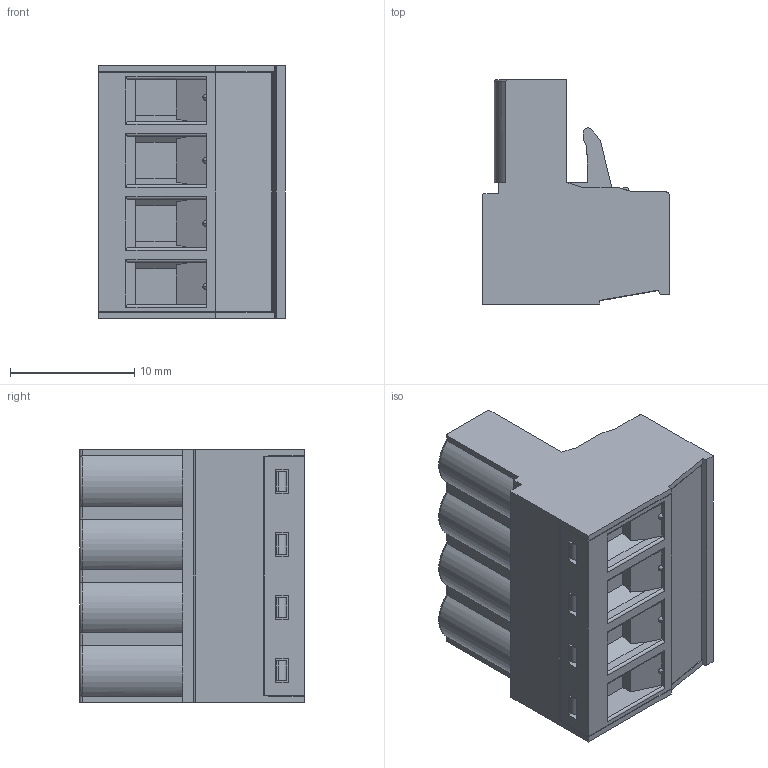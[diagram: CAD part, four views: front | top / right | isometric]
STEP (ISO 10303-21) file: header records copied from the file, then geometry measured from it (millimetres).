
FILE_DESCRIPTION (( 'STEP AP203' ), '1' );
FILE_NAME ('BR8F1-04.STEP', '2020-03-04T00:50:06', ( '' ), ( '' ), 'SwSTEP 2.0', 'SolidWorks 2019', '' );
FILE_SCHEMA (( 'CONFIG_CONTROL_DESIGN' ));
Length unit declared in the file: millimetre
Products named in the file (1): BR8F1-04
Bounding box: 15.05 x 18.1 x 20.32 mm (x, y, z)
Volume: 3259 mm3; surface area: 2974.9 mm2
Topology: 1 solids, 1 shells, 559 faces, 1497 edges, 964 vertices
Faces by surface type: plane 357, cylinder 130, cone 32, torus 24, sphere 16
Entity records: 17723 total; most frequent: CARTESIAN_POINT 3532, ORIENTED_EDGE 2994, DIRECTION 2859, EDGE_CURVE 1497, LINE 1107, VECTOR 1107, VERTEX_POINT 964, AXIS2_PLACEMENT_3D 876
